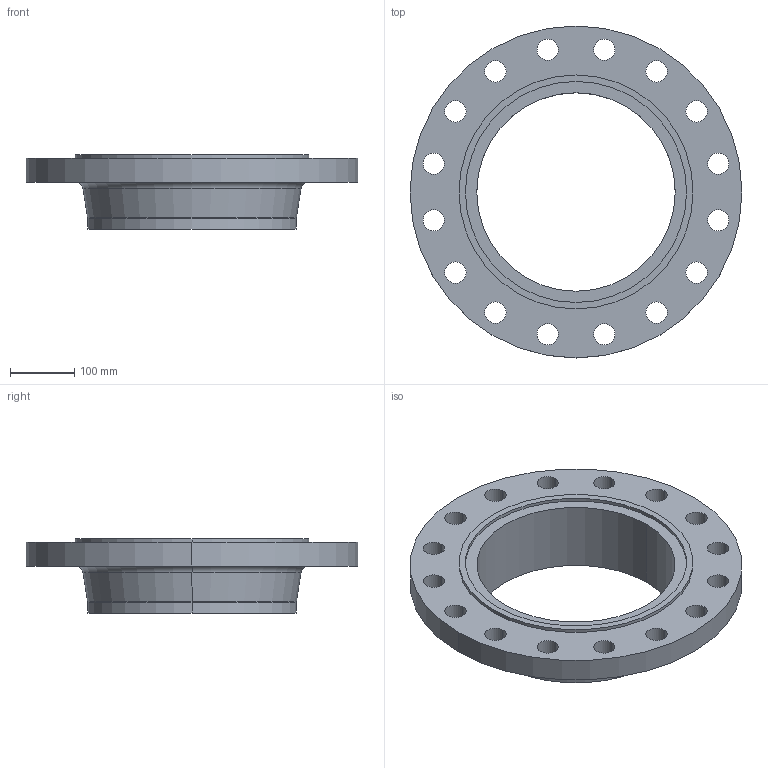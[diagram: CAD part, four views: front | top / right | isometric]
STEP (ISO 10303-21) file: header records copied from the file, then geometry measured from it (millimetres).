
FILE_DESCRIPTION (( 'STEP AP214' ), '1' );
FILE_NAME ('PN40 DN300 Type 11 - Type C Face.STEP', '2019-01-05T20:25:28', ( '' ), ( '' ), 'SwSTEP 2.0', 'SolidWorks 2019', '' );
FILE_SCHEMA (( 'AUTOMOTIVE_DESIGN' ));
Length unit declared in the file: millimetre
Products named in the file (1): PN40 DN300 Type 11 - Type C Face
Bounding box: 515 x 515 x 115 mm (x, y, z)
Volume: 5358803.8 mm3; surface area: 542662.6 mm2
Topology: 1 solids, 1 shells, 53 faces, 138 edges, 90 vertices
Faces by surface type: cylinder 42, plane 5, torus 4, cone 2
Entity records: 1780 total; most frequent: DIRECTION 340, CARTESIAN_POINT 282, ORIENTED_EDGE 276, AXIS2_PLACEMENT_3D 148, EDGE_CURVE 138, CIRCLE 94, EDGE_LOOP 90, VERTEX_POINT 90
